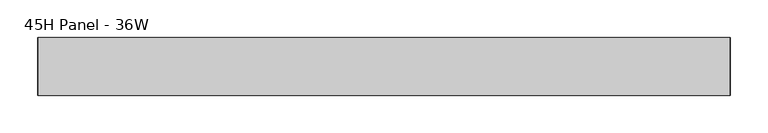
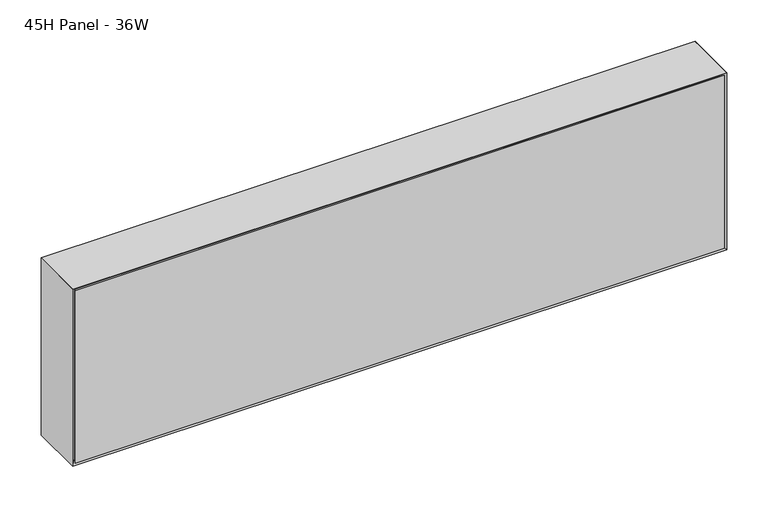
"""IFC4 building model written with IfcOpenShell, lengths in millimetres: furniture geometry, Steelcase - Montage - Frame - 10H - Enhanced Standard - Single Stack-On : 45H Panel - 36W."""

from ifc_helpers import new_model, si_unit, frame, origin, place, context, project, spatial, polyline, outline, extrude, faceted_brep, source, transform, mapped, element, save


def furniture_45h_panel_36w_9c17e278(model_context):
    return source(origin(), model_context, "Body", "SolidModel", [
        faceted_brep([(904.8750027, 31.7500194, 1389.0752415), (9.5250028, 31.7500194, 1389.0752415), (9.5250028, 31.7500194, 1146.175), (904.8750027, 31.7500194, 1146.175), (911.225, 38.1000194, 1395.4252415), (911.225, 38.1000194, 1139.825), (3.175, 38.1000194, 1139.825), (3.175, 38.1000194, 1395.4252415)], [[[0, 1, 2, 3]], [[4, 5, 6, 7]], [[4, 0, 3, 5]], [[5, 3, 2, 6]], [[6, 2, 1, 7]], [[7, 1, 0, 4]]]),
        faceted_brep([(904.8750027, -31.7500194, 1389.0752415), (904.8750027, -31.7500194, 1146.175), (9.5250028, -31.7500194, 1146.175), (9.5250028, -31.7500194, 1389.0752415), (911.225, -38.1000194, 1395.4252415), (3.175, -38.1000194, 1395.4252415), (3.175, -38.1000194, 1139.825), (911.225, -38.1000194, 1139.825)], [[[0, 1, 2, 3]], [[4, 5, 6, 7]], [[4, 7, 1, 0]], [[7, 6, 2, 1]], [[6, 5, 3, 2]], [[5, 4, 0, 3]]]),
        faceted_brep([(914.4, -38.1000015, 1136.65), (914.4, 38.1000015, 1136.65), (914.4, 38.1000015, 1398.6002415), (914.4, -38.1000106, 1398.6002414), (0.0, 38.1000015, 1136.65), (0.0, -38.1000015, 1136.65), (0.0, -38.1000015, 1398.6002415), (0.0, 38.1000015, 1398.6002415), (6.3500484, 31.749953, 1143.0000484), (908.0499879, 31.749953, 1143.0000484), (6.35, -31.749953, 1143.0000484), (908.0499879, -31.749953, 1143.0000484), (6.3500169, 31.7499846, 1392.2502245), (6.3500012, -31.7500003, 1392.250193), (908.0499879, -31.7499973, 1392.250193), (908.0499879, 31.7499885, 1392.2502293)], [[[0, 1, 2, 3]], [[4, 5, 6, 7]], [[1, 0, 5, 4]], [[1, 4, 8, 9]], [[9, 8, 10, 11]], [[5, 0, 11, 10]], [[4, 7, 12, 8]], [[6, 5, 10, 13]], [[10, 8, 12, 13]], [[9, 11, 14, 15]], [[0, 3, 14, 11]], [[2, 1, 9, 15]], [[3, 2, 15, 14]], [[7, 6, 13, 12]]]),
        faceted_brep([(914.4, -38.1000015, 1398.6002415), (0.0, -38.1000015, 1398.6002415), (6.3500484, -31.749953, 1392.250193), (908.0499516, -31.749953, 1392.250193), (6.3500484, 31.749953, 1392.250193), (908.0499516, 31.749953, 1392.250193), (0.0, 38.1000015, 1398.6002415), (914.4, 38.1000015, 1398.6002415)], [[[0, 1, 2, 3]], [[3, 2, 4, 5]], [[6, 7, 5, 4]], [[1, 0, 7, 6]], [[2, 1, 6, 4]], [[0, 3, 5, 7]]]),
        extrude(outline(polyline([(908.0499879, 31.7500016), (908.0499879, -31.7499985), (6.35, -31.7499985), (6.35, 31.7500016), (908.0499879, 31.7500016)])), frame((0.0, 0.0, 1142.9952145), z_axis=(0.0, 0.0, 1.0), x_axis=(1.0, 0.0, 0.0)), (0.0, 0.0, 1.0), 249.2549785),
    ])


if __name__ == "__main__":
    model = new_model("IFC4")
    model_context = context("Model", 3, world=origin())
    ifc_project = project(units=[si_unit("LENGTHUNIT", "METRE", prefix="MILLI")], contexts=[model_context])
    site = spatial("IfcSite", under=ifc_project)
    building = spatial("IfcBuilding", under=site)
    placement = place(None, origin())
    furniture_45h_panel_36w_shape = furniture_45h_panel_36w_9c17e278(model_context)
    element("IfcFurniture", 1, ObjectType="Steelcase - Montage - Frame - 10H - Enhanced Standard - Single Stack-On : 45H Panel - 36W", at=placement, inside=building, context=model_context, shape_type="MappedRepresentation", body=[
        mapped(furniture_45h_panel_36w_shape, transform((0.0, 0.0, 0.0), x_axis=(1.0, 0.0, 0.0), y_axis=(0.0, 1.0, 0.0), z_axis=(0.0, 0.0, 1.0))),
    ])
    save(model, "model.ifc")
